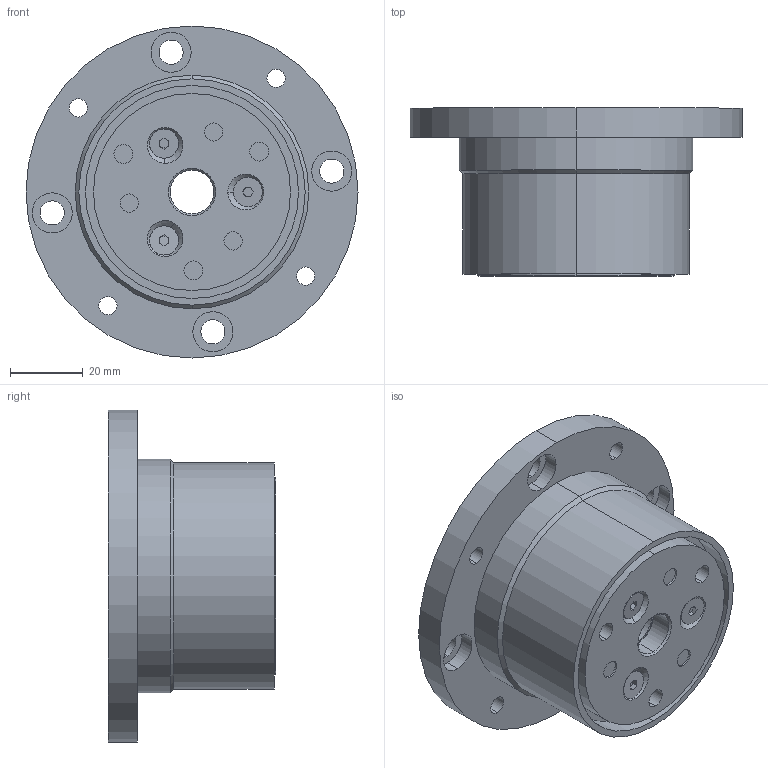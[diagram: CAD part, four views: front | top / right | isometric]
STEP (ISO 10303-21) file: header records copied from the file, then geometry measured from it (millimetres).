
FILE_DESCRIPTION (( 'STEP AP203' ), '1' );
FILE_NAME ('SMT.FB.050.054.STEP', '2023-04-06T09:36:45', ( '' ), ( '' ), 'SwSTEP 2.0', 'SolidWorks 2020', '' );
FILE_SCHEMA (( 'CONFIG_CONTROL_DESIGN' ));
Length unit declared in the file: millimetre
Products named in the file (1): SMT.FB.050.054
Bounding box: 91 x 46 x 91 mm (x, y, z)
Volume: 156746.9 mm3; surface area: 30023.7 mm2
Topology: 1 solids, 20 shells, 440 faces, 955 edges, 575 vertices
Faces by surface type: plane 182, cylinder 154, cone 88, bspline 16
Entity records: 12085 total; most frequent: CARTESIAN_POINT 2283, DIRECTION 2170, ORIENTED_EDGE 1862, EDGE_CURVE 931, AXIS2_PLACEMENT_3D 845, VERTEX_POINT 575, EDGE_LOOP 524, VECTOR 480
